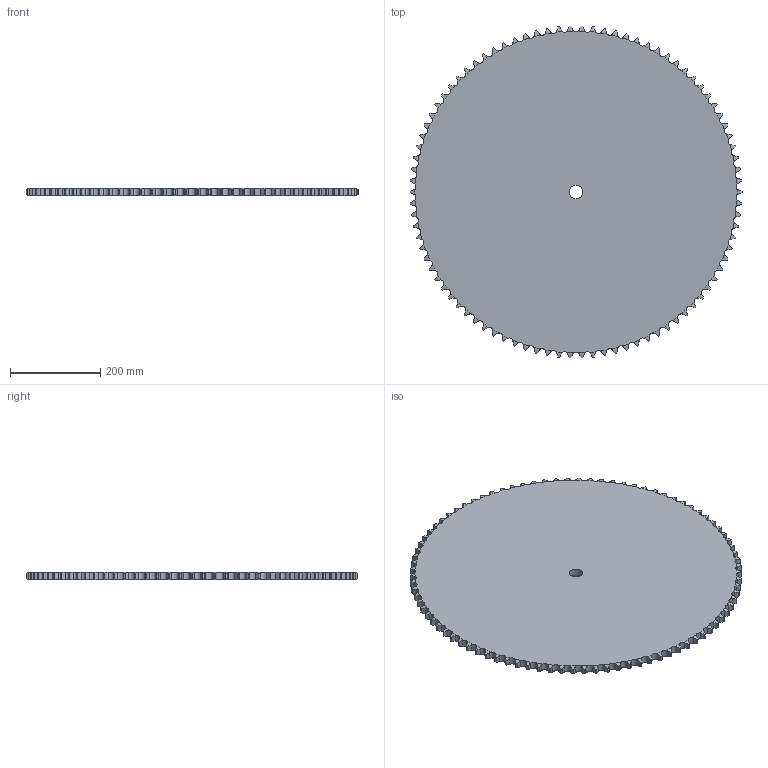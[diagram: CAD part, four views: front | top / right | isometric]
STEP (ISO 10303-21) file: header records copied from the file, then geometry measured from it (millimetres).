
FILE_DESCRIPTION((''),'2;1');
FILE_NAME('500-501-0090_PRT','2021-02-12T',('Brieden'),('Brieden'),'PRO/ENGINEER BY PARAMETRIC TECHNOLOGY CORPORATION, 2010160','PRO/ENGINEER BY PARAMETRIC TECHNOLOGY CORPORATION, 2010160','');
FILE_SCHEMA(('AUTOMOTIVE_DESIGN { 1 0 10303 214 1 1 1 1 }'));
Length unit declared in the file: millimetre
Products named in the file (1): 500-501-0090_PRT
Bounding box: 737.78 x 737.43 x 16.2 mm (x, y, z)
Volume: 6608877.2 mm3; surface area: 871598.5 mm2
Topology: 1 solids, 1 shells, 544 faces, 1626 edges, 1084 vertices
Faces by surface type: cylinder 362, torus 180, plane 2
Entity records: 27568 total; most frequent: CARTESIAN_POINT 8859, ORIENTED_EDGE 3252, DIRECTION 2538, PRESENTATION_STYLE_ASSIGNMENT 1627, STYLED_ITEM 1627, CURVE_STYLE 1626, EDGE_CURVE 1626, AXIS2_PLACEMENT_3D 1088
